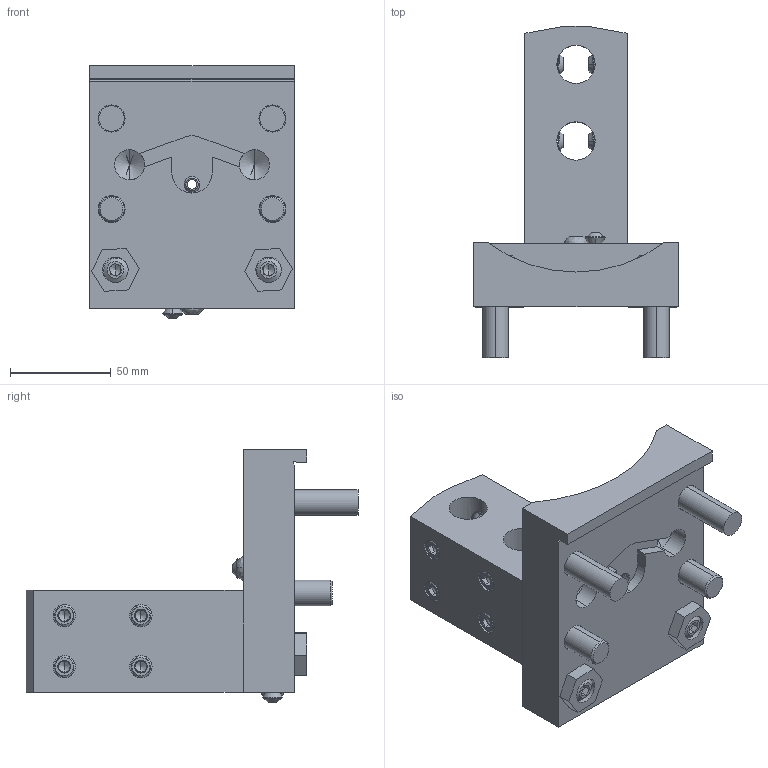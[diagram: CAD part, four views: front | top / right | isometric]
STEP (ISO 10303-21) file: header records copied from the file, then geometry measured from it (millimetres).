
FILE_DESCRIPTION (( 'STEP AP203' ), '1' );
FILE_NAME ('04-0760, BOT20EXTID-.75T.STEP', '2022-07-18T15:07:56', ( '' ), ( '' ), 'SwSTEP 2.0', 'SolidWorks 2021', '' );
FILE_SCHEMA (( 'CONFIG_CONTROL_DESIGN' ));
Length unit declared in the file: inch
Products named in the file (1): 04-0760, BOT20EXTID-.75T
Bounding box: 101.6 x 165.1 x 125.76 mm (x, y, z)
Surface area: 91668.9 mm2 (no closed solid volume)
Topology: 0 solids, 49 shells, 503 faces, 1413 edges, 913 vertices
Faces by surface type: plane 197, cone 175, cylinder 123, bspline 8
Entity records: 22683 total; most frequent: CARTESIAN_POINT 10489, ORIENTED_EDGE 2460, DIRECTION 2361, EDGE_CURVE 1377, VERTEX_POINT 911, AXIS2_PLACEMENT_3D 896, VECTOR 569, LINE 569
